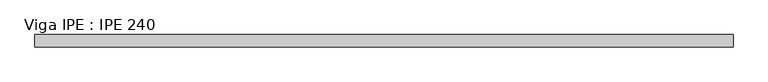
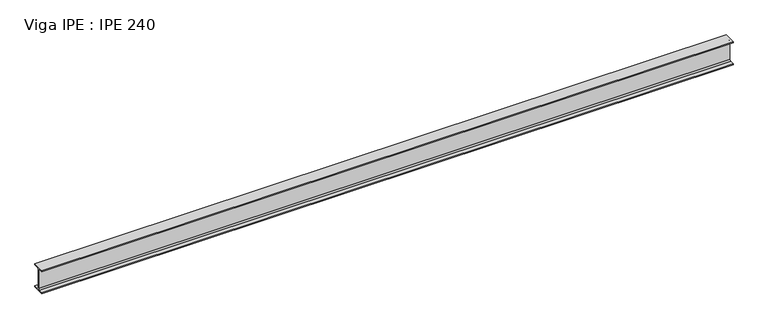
"""IFC4 building model written with IfcOpenShell, lengths in millimetres: beam geometry, Viga IPE : IPE 240."""

import ifcopenshell
import ifcopenshell.guid

model = None  # the IFC model being written
_history = None  # IfcOwnerHistory: only IFC2X3 demands one
_inside = {}  # id of a spatial element -> (the spatial element, [elements in it])
_under = {}  # id of a project, library or spatial element -> (it, [spatial elements below it])
_declared = {}  # id of a project -> (the project, [libraries it declares])
_typed = {}  # id of a type object -> (the type object, [elements of that type])
_made_of = {}  # id of a material, layer set ... -> (it, [elements and type objects made of it])


def new_model(schema):
    """Start an empty IFC model of exactly this schema.

    Asked for "IFC4X3", IfcOpenShell would pick the latest addendum, in which some entities
    have other attributes; the version numbers below select the first issue.
    IFC2X3 requires an IfcOwnerHistory on every rooted entity: one is made here for all.
    """
    global model, _history
    if schema == "IFC4X3":
        model = ifcopenshell.file(schema_version=(4, 3, 0, 0))
    else:
        model = ifcopenshell.file(schema=schema)
    _inside.clear()
    _under.clear()
    _declared.clear()
    _typed.clear()
    _made_of.clear()
    _history = None
    if model.schema == "IFC2X3":
        org = make("IfcOrganization", Name="unknown")
        user = make(
            "IfcPersonAndOrganization",
            ThePerson=make("IfcPerson", FamilyName="unknown"),
            TheOrganization=org,
        )
        app = make(
            "IfcApplication",
            ApplicationDeveloper=org,
            Version="unknown",
            ApplicationFullName="unknown",
            ApplicationIdentifier="unknown",
        )
        _history = make(
            "IfcOwnerHistory",
            OwningUser=user,
            OwningApplication=app,
            ChangeAction="ADDED",
            CreationDate=0,
        )
    return model


def make(cls, **values):
    """One entity of the class cls with the attributes given. An attribute that is None is left unset."""
    return model.create_entity(
        cls, **{name: value for name, value in values.items() if value is not None}
    )


def rooted(cls, **values):
    """An entity with a GlobalId (a new one), such as an element, a storey or a relation."""
    return make(cls, GlobalId=ifcopenshell.guid.new(), OwnerHistory=_history, **values)


def si_unit(unit_type, name, prefix=None):
    """IfcSIUnit, for example si_unit("LENGTHUNIT", "METRE", prefix="MILLI")."""
    return make("IfcSIUnit", UnitType=unit_type, Prefix=prefix, Name=name)


def assignment(units):
    """IfcUnitAssignment: the units of a project."""
    return None if units is None else make("IfcUnitAssignment", Units=units)


def point(xyz):
    """IfcCartesianPoint."""
    return None if xyz is None else make("IfcCartesianPoint", Coordinates=xyz)


def direction(xyz):
    """IfcDirection."""
    return None if xyz is None else make("IfcDirection", DirectionRatios=xyz)


def frame(location, z_axis=None, x_axis=None):
    """IfcAxis2Placement3D, a coordinate frame: its origin and axes. An axis left out is left unset."""
    return make(
        "IfcAxis2Placement3D",
        Location=point(location),
        Axis=direction(z_axis),
        RefDirection=direction(x_axis),
    )


def frame_2d(location, x_axis=None):
    """IfcAxis2Placement2D, a coordinate frame in the plane: its origin and x axis."""
    return make(
        "IfcAxis2Placement2D", Location=point(location), RefDirection=direction(x_axis)
    )


def origin():
    """The frame at (0, 0, 0) with its axes left unset."""
    return frame((0.0, 0.0, 0.0))


def place(relative_to, where):
    """IfcLocalPlacement: puts the frame where relative to a parent placement (None: the world)."""
    return make(
        "IfcLocalPlacement", PlacementRelTo=relative_to, RelativePlacement=where
    )


def context(
    kind, dimensions, precision=None, world=None, true_north=None, identifier=None
):
    """IfcGeometricRepresentationContext, for example the 3D "Model" context."""
    return make(
        "IfcGeometricRepresentationContext",
        ContextIdentifier=identifier,
        ContextType=kind,
        CoordinateSpaceDimension=dimensions,
        Precision=precision,
        WorldCoordinateSystem=world,
        TrueNorth=true_north,
    )


def project(units=None, contexts=None):
    """IfcProject with its units and contexts."""
    return rooted(
        "IfcProject",
        Name="project",
        RepresentationContexts=contexts,
        UnitsInContext=assignment(units),
    )


def spatial(cls, under=None, at=None, **own):
    """A site, building, storey or space (cls), placed at a placement, below another one or the project."""
    s = rooted(cls, ObjectPlacement=at, **own)
    if under is not None:
        _under.setdefault(under.id(), (under, []))[1].append(s)
    return s


def polyline(points):
    """IfcPolyline through the points."""
    return make("IfcPolyline", Points=[point(p) for p in points])


def circle_curve(where, radius):
    """IfcCircle in the frame where."""
    return make("IfcCircle", Position=where, Radius=radius)


def trimmed(basis, trim1, trim2, sense, master):
    """IfcTrimmedCurve: the piece of a basis curve between two trims."""
    return make(
        "IfcTrimmedCurve",
        BasisCurve=basis,
        Trim1=trim1,
        Trim2=trim2,
        SenseAgreement=sense,
        MasterRepresentation=master,
    )


def segment(curve, same_sense, transition):
    """IfcCompositeCurveSegment."""
    return make(
        "IfcCompositeCurveSegment",
        Transition=transition,
        SameSense=same_sense,
        ParentCurve=curve,
    )


def composite_curve(segments, self_intersect=None):
    """IfcCompositeCurve: segments joined end to end."""
    return make("IfcCompositeCurve", Segments=segments, SelfIntersect=self_intersect)


def outline(outer, holes=None, kind="AREA"):
    """IfcArbitraryClosedProfileDef: a profile drawn as a closed curve; with holes, ...WithVoids."""
    if holes is None:
        return make("IfcArbitraryClosedProfileDef", ProfileType=kind, OuterCurve=outer)
    return make(
        "IfcArbitraryProfileDefWithVoids",
        ProfileType=kind,
        OuterCurve=outer,
        InnerCurves=holes,
    )


def extrude(swept, where, along, depth):
    """IfcExtrudedAreaSolid: the profile swept, set in the frame where, extruded along a direction by depth."""
    return make(
        "IfcExtrudedAreaSolid",
        SweptArea=swept,
        Position=where,
        ExtrudedDirection=direction(along),
        Depth=depth,
    )


def shape(context_of_items, identifier, shape_type, items):
    """IfcShapeRepresentation: the items that make up one representation, for example the "Body"."""
    return make(
        "IfcShapeRepresentation",
        ContextOfItems=context_of_items,
        RepresentationIdentifier=identifier,
        RepresentationType=shape_type,
        Items=items,
    )


def source(mapping_origin, context_of_items, identifier, shape_type, items):
    """IfcRepresentationMap: a shape defined once, which mapped items show again and again."""
    return make(
        "IfcRepresentationMap",
        MappingOrigin=mapping_origin,
        MappedRepresentation=shape(context_of_items, identifier, shape_type, items),
    )


def transform(
    local_origin,
    x_axis=None,
    y_axis=None,
    z_axis=None,
    scale=None,
    scale2=None,
    scale3=None,
    uniform=True,
):
    """IfcCartesianTransformationOperator3D, or its non-uniform kind. x_axis, y_axis, z_axis: its Axis1, 2, 3."""
    if uniform:
        return make(
            "IfcCartesianTransformationOperator3D",
            Axis1=direction(x_axis),
            Axis2=direction(y_axis),
            LocalOrigin=point(local_origin),
            Scale=scale,
            Axis3=direction(z_axis),
        )
    return make(
        "IfcCartesianTransformationOperator3DnonUniform",
        Axis1=direction(x_axis),
        Axis2=direction(y_axis),
        LocalOrigin=point(local_origin),
        Scale=scale,
        Axis3=direction(z_axis),
        Scale2=scale2,
        Scale3=scale3,
    )


def mapped(mapping_source, mapping_target):
    """IfcMappedItem: shows the shape of a source again, moved by a transform."""
    return make(
        "IfcMappedItem", MappingSource=mapping_source, MappingTarget=mapping_target
    )


def made_of(thing, what):
    """Note that an element or type object is made of a material, layer set ...; save() writes the relation."""
    if what is not None:
        _made_of.setdefault(what.id(), (what, []))[1].append(thing)
    return thing


def element(
    cls,
    number,
    at=None,
    inside=None,
    cuts=None,
    type_object=None,
    material=None,
    context=None,
    identifier="Body",
    shape_type=None,
    held_by="IfcProductDefinitionShape",
    body=None,
    shapes=None,
    **own,
):
    """One element of the class cls, such as IfcWall. Its Tag is "e" and its number.

    at: its placement. inside: the storey or other place that contains it. cuts: it is an
    opening in that element (IfcRelVoidsElement). A single representation is given by context,
    identifier, shape_type and body (its items); several are given by shapes. held_by: the class
    of the entity that holds the representations. save() writes the other relations.
    """
    e = rooted(cls, Tag="e%d" % number, ObjectPlacement=at, **own)
    if body is not None:
        shapes = [shape(context, identifier, shape_type, body)]
    if shapes is not None:
        e.Representation = make(held_by, Representations=shapes)
    if inside is not None:
        _inside.setdefault(inside.id(), (inside, []))[1].append(e)
    if cuts is not None:
        rooted(
            "IfcRelVoidsElement", RelatingBuildingElement=cuts, RelatedOpeningElement=e
        )
    if type_object is not None:
        _typed.setdefault(type_object.id(), (type_object, []))[1].append(e)
    return made_of(e, material)


def aggregate(whole, parts):
    """IfcRelAggregates: a whole, such as a stair, and the parts it consists of."""
    return rooted("IfcRelAggregates", RelatingObject=whole, RelatedObjects=parts)


def save(model, path):
    """Write the relations noted so far, then the file.

    IfcRelAggregates (storeys below a building ...), IfcRelContainedInSpatialStructure (elements
    in a storey), IfcRelDefinesByType, IfcRelAssociatesMaterial and IfcRelDeclares: one each for
    every whole, place, type object, material and project.
    """
    for whole, parts in _under.values():
        aggregate(whole, parts)
    for where, things in _inside.values():
        rooted(
            "IfcRelContainedInSpatialStructure",
            RelatedElements=things,
            RelatingStructure=where,
        )
    for kind, things in _typed.values():
        rooted("IfcRelDefinesByType", RelatedObjects=things, RelatingType=kind)
    for what, things in _made_of.values():
        rooted("IfcRelAssociatesMaterial", RelatedObjects=things, RelatingMaterial=what)
    for by, libraries in _declared.values():
        rooted("IfcRelDeclares", RelatingContext=by, RelatedDefinitions=libraries)
    model.write(path)


def viga_ipe_ipe_240_5b98cc35(model_context):
    return source(origin(), model_context, "Body", "SweptSolid", [
        extrude(outline(composite_curve([segment(polyline([(60.0, -110.2), (60.0, -120.0), (-60.0, -120.0), (-60.0, -110.2), (-18.1, -110.2)]), True, "CONTINUOUS"), segment(trimmed(circle_curve(frame_2d((-18.1, -95.2)), 15.0), [point((-18.1, -110.2))], [point((-3.1, -95.2))], True, "CARTESIAN"), True, "CONTINUOUS"), segment(polyline([(-3.1, -95.2), (-3.1, 95.2)]), True, "CONTINUOUS"), segment(trimmed(circle_curve(frame_2d((-18.1, 95.2)), 15.0), [point((-3.1, 95.2))], [point((-18.1, 110.2))], True, "CARTESIAN"), True, "CONTINUOUS"), segment(polyline([(-18.1, 110.2), (-60.0, 110.2), (-60.0, 120.0), (60.0, 120.0), (60.0, 110.2), (18.1, 110.2)]), True, "CONTINUOUS"), segment(trimmed(circle_curve(frame_2d((18.1, 95.2)), 15.0), [point((18.1, 110.2))], [point((3.1, 95.2))], True, "CARTESIAN"), True, "CONTINUOUS"), segment(polyline([(3.1, 95.2), (3.1, -95.2)]), True, "CONTINUOUS"), segment(trimmed(circle_curve(frame_2d((18.1, -95.2)), 15.0), [point((3.1, -95.2))], [point((18.1, -110.2))], True, "CARTESIAN"), True, "CONTINUOUS"), segment(polyline([(18.1, -110.2), (60.0, -110.2)]), True, "CONTINUOUS")], self_intersect=False)), frame((-3422.7, 0.0, 0.0), z_axis=(1.0, 0.0, 0.0), x_axis=(0.0, 1.0, 0.0)), (0.0, 0.0, 1.0), 6845.4),
    ])


if __name__ == "__main__":
    model = new_model("IFC4")
    model_context = context("Model", 3, world=origin())
    ifc_project = project(units=[si_unit("LENGTHUNIT", "METRE", prefix="MILLI")], contexts=[model_context])
    site = spatial("IfcSite", under=ifc_project)
    building = spatial("IfcBuilding", under=site)
    placement = place(None, origin())
    viga_ipe_ipe_240_shape = viga_ipe_ipe_240_5b98cc35(model_context)
    element("IfcBeam", 1, ObjectType="Viga IPE : IPE 240", at=placement, inside=building, context=model_context, shape_type="MappedRepresentation", body=[
        mapped(viga_ipe_ipe_240_shape, transform((0.0, 0.0, 0.0), x_axis=(1.0, 0.0, 0.0), y_axis=(0.0, 1.0, 0.0), z_axis=(0.0, 0.0, 1.0))),
    ])
    save(model, "model.ifc")
